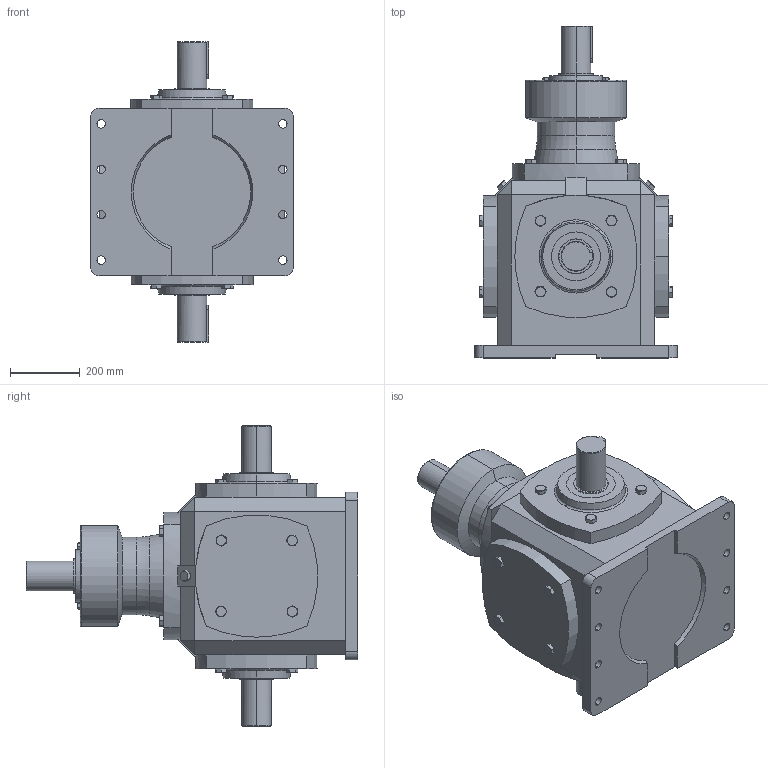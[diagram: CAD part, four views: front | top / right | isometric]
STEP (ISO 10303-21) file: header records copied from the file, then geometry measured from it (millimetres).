
FILE_DESCRIPTION (( 'STEP AP203' ), '1' );
FILE_NAME ('TC25-1-WS1-V4.step', '2018-07-13T06:29:35', ( 'IT Division' ), ( 'IT' ), 'SwSTEP 2.0', 'SolidWorks 2016', '' );
FILE_SCHEMA (( 'CONFIG_CONTROL_DESIGN' ));
Length unit declared in the file: millimetre
Products named in the file (1): TC25-1-WS1-V4
Bounding box: 580 x 950 x 860 mm (x, y, z)
Volume: 141765902.2 mm3; surface area: 2467220.2 mm2
Topology: 2 solids, 2 shells, 537 faces, 1273 edges, 778 vertices
Faces by surface type: plane 257, cone 201, cylinder 71, torus 8
Entity records: 16803 total; most frequent: CARTESIAN_POINT 4748, ORIENTED_EDGE 2546, DIRECTION 2381, EDGE_CURVE 1273, AXIS2_PLACEMENT_3D 907, VERTEX_POINT 778, EDGE_LOOP 591, VECTOR 567
